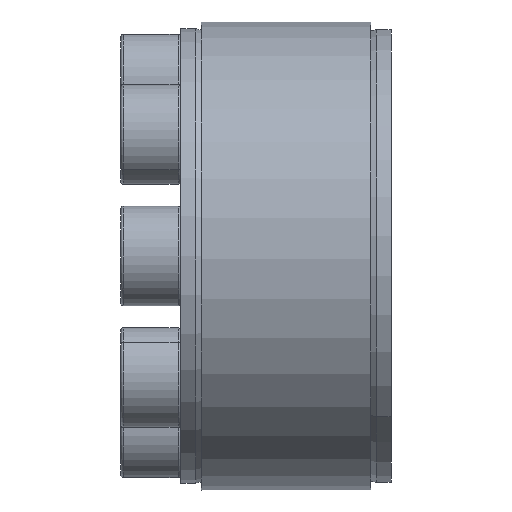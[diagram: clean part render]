
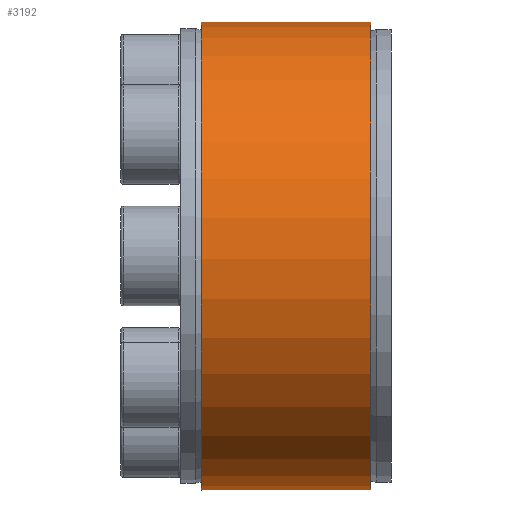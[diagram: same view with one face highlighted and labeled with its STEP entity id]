
A CAD part, front view. The second image highlights one B-rep face of the part: STEP entity #3192.
In plain terms, the highlighted cylindrical face has radius 23.5 mm (diameter 47 mm), a partial arc.
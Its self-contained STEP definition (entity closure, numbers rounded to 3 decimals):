
#590 = VECTOR ( 'NONE', #1147, 1000. ) ;
#595 = LINE ( 'NONE', #1138, #590 ) ;
#608 = CIRCLE ( 'NONE', #6033, 23.5 ) ;
#631 = VERTEX_POINT ( 'NONE', #5980 ) ;
#769 = CIRCLE ( 'NONE', #5227, 23.5 ) ;
#849 = ORIENTED_EDGE ( 'NONE', *, *, #1329, .F. ) ;
#1138 = CARTESIAN_POINT ( 'NONE',  ( -8.5, 0.779, 23.487 ) ) ;
#1147 = DIRECTION ( 'NONE',  ( -1., 0., 0. ) ) ;
#1329 = EDGE_CURVE ( 'NONE', #3719, #2783, #608, .T. ) ;
#1632 = ORIENTED_EDGE ( 'NONE', *, *, #6246, .T. ) ;
#1646 = CARTESIAN_POINT ( 'NONE',  ( -8.5, -0.621, 23.492 ) ) ;
#1790 = DIRECTION ( 'NONE',  ( -1., 0., 0. ) ) ;
#2189 = DIRECTION ( 'NONE',  ( 0., 0., 1. ) ) ;
#2296 = DIRECTION ( 'NONE',  ( -1., 0., 0. ) ) ;
#2393 = CARTESIAN_POINT ( 'NONE',  ( 8.5, 0., 0. ) ) ;
#2783 = VERTEX_POINT ( 'NONE', #1646 ) ;
#2841 = DIRECTION ( 'NONE',  ( 0., 0., 1. ) ) ;
#3192 = ADVANCED_FACE ( 'NONE', ( #4982 ), #4938, .T. ) ;
#3266 = VERTEX_POINT ( 'NONE', #5141 ) ;
#3463 = CARTESIAN_POINT ( 'NONE',  ( -8.5, 0., 0. ) ) ;
#3719 = VERTEX_POINT ( 'NONE', #6705 ) ;
#3868 = AXIS2_PLACEMENT_3D ( 'NONE', #3463, #5618, #5644 ) ;
#4110 = ORIENTED_EDGE ( 'NONE', *, *, #6882, .F. ) ;
#4627 = ORIENTED_EDGE ( 'NONE', *, *, #6417, .F. ) ;
#4938 = CYLINDRICAL_SURFACE ( 'NONE', #3868, 23.5 ) ;
#4982 = FACE_OUTER_BOUND ( 'NONE', #5856, .T. ) ;
#5128 = CARTESIAN_POINT ( 'NONE',  ( -8.5, 0., 0. ) ) ;
#5129 = CARTESIAN_POINT ( 'NONE',  ( -8.5, -0.621, 23.492 ) ) ;
#5141 = CARTESIAN_POINT ( 'NONE',  ( 8.5, 0.779, 23.487 ) ) ;
#5227 = AXIS2_PLACEMENT_3D ( 'NONE', #2393, #2296, #2189 ) ;
#5338 = DIRECTION ( 'NONE',  ( 1., 0., 0. ) ) ;
#5618 = DIRECTION ( 'NONE',  ( -1., 0., 0. ) ) ;
#5644 = DIRECTION ( 'NONE',  ( 0., 0., 1. ) ) ;
#5856 = EDGE_LOOP ( 'NONE', ( #4627, #1632, #4110, #849 ) ) ;
#5980 = CARTESIAN_POINT ( 'NONE',  ( 8.5, -0.621, 23.492 ) ) ;
#6033 = AXIS2_PLACEMENT_3D ( 'NONE', #5128, #1790, #2841 ) ;
#6245 = VECTOR ( 'NONE', #5338, 1000. ) ;
#6246 = EDGE_CURVE ( 'NONE', #3266, #631, #769, .T. ) ;
#6417 = EDGE_CURVE ( 'NONE', #3266, #3719, #595, .T. ) ;
#6705 = CARTESIAN_POINT ( 'NONE',  ( -8.5, 0.779, 23.487 ) ) ;
#6757 = LINE ( 'NONE', #5129, #6245 ) ;
#6882 = EDGE_CURVE ( 'NONE', #2783, #631, #6757, .T. ) ;
